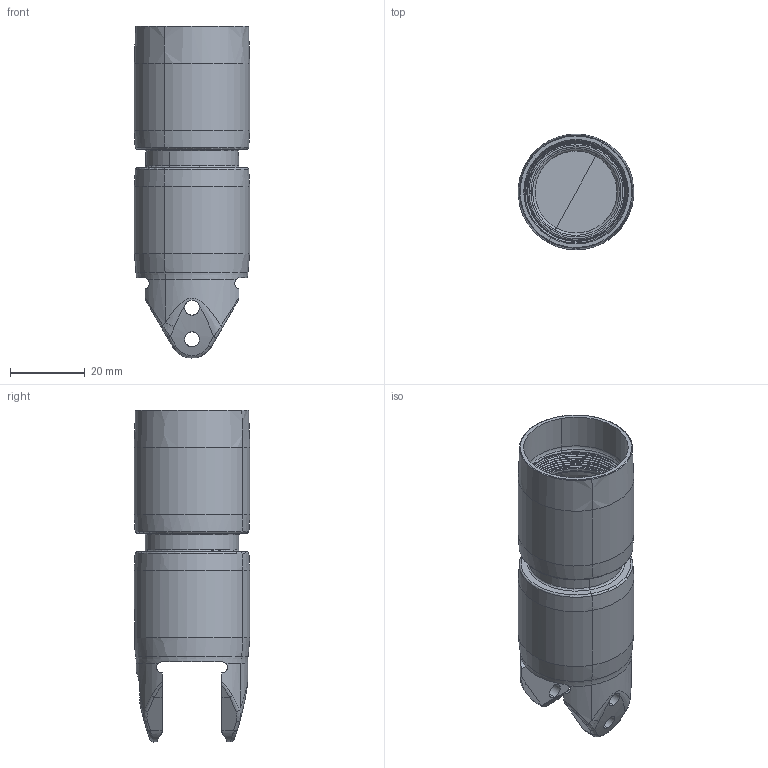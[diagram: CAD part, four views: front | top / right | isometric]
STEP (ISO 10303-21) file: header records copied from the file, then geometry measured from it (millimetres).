
FILE_DESCRIPTION((''),'2;1');
FILE_NAME('2249648-00_B_1_3_ROD_END_31MM_M','2026-08-22T15:56:17',('Administrator'),(''),'CREO PARAMETRIC BY PTC INC, 2019010','CREO PARAMETRIC BY PTC INC, 2019010','');
FILE_SCHEMA(('CONFIG_CONTROL_DESIGN','SHAPE_APPEARANCE_LAYERS_GROUPS'));
Length unit declared in the file: millimetre
Products named in the file (1): 2249648-00_B_1_3_ROD_END_31MM_M
Bounding box: 30.9 x 31 x 89 mm (x, y, z)
Volume: 12047.5 mm3; surface area: 20877.4 mm2
Topology: 1 solids, 5 shells, 194 faces, 582 edges, 390 vertices
Faces by surface type: cylinder 67, bspline 52, plane 32, torus 30, cone 13
Entity records: 11560 total; most frequent: CARTESIAN_POINT 4553, ORIENTED_EDGE 1110, DIRECTION 931, EDGE_CURVE 582, COLOUR_RGB 551, VERTEX_POINT 390, AXIS2_PLACEMENT_3D 389, PRESENTATION_STYLE_ASSIGNMENT 247
